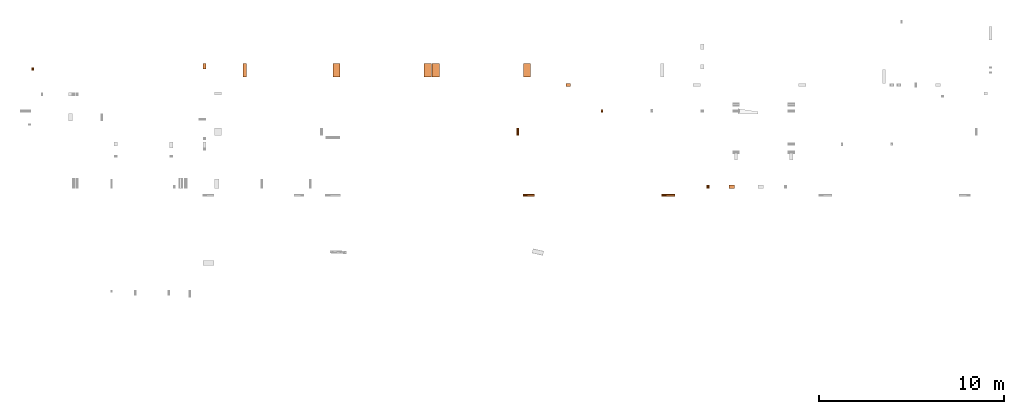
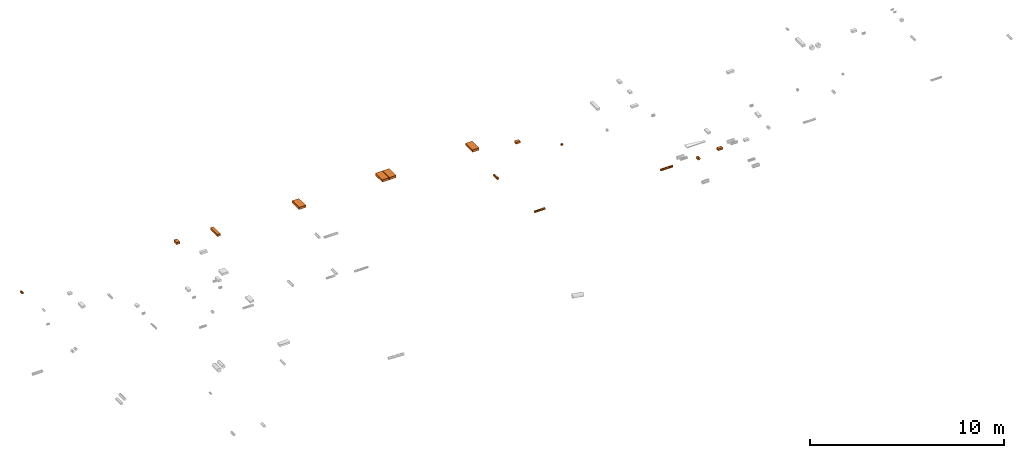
# One storey, part 3 of 7: 14 proxies.
"""IFC2X3 building model written with IfcOpenShell, lengths in centimetres."""

import ifcopenshell
import ifcopenshell.guid

model = None  # the IFC model being written
_history = None  # IfcOwnerHistory: only IFC2X3 demands one
_inside = {}  # id of a spatial element -> (the spatial element, [elements in it])
_under = {}  # id of a project, library or spatial element -> (it, [spatial elements below it])
_declared = {}  # id of a project -> (the project, [libraries it declares])
_typed = {}  # id of a type object -> (the type object, [elements of that type])
_made_of = {}  # id of a material, layer set ... -> (it, [elements and type objects made of it])


def new_model(schema):
    """Start an empty IFC model of exactly this schema.

    Asked for "IFC4X3", IfcOpenShell would pick the latest addendum, in which some entities
    have other attributes; the version numbers below select the first issue.
    IFC2X3 requires an IfcOwnerHistory on every rooted entity: one is made here for all.
    """
    global model, _history
    if schema == "IFC4X3":
        model = ifcopenshell.file(schema_version=(4, 3, 0, 0))
    else:
        model = ifcopenshell.file(schema=schema)
    _inside.clear()
    _under.clear()
    _declared.clear()
    _typed.clear()
    _made_of.clear()
    _history = None
    if model.schema == "IFC2X3":
        org = make("IfcOrganization", Name="unknown")
        user = make(
            "IfcPersonAndOrganization",
            ThePerson=make("IfcPerson", FamilyName="unknown"),
            TheOrganization=org,
        )
        app = make(
            "IfcApplication",
            ApplicationDeveloper=org,
            Version="unknown",
            ApplicationFullName="unknown",
            ApplicationIdentifier="unknown",
        )
        _history = make(
            "IfcOwnerHistory",
            OwningUser=user,
            OwningApplication=app,
            ChangeAction="ADDED",
            CreationDate=0,
        )
    return model


def make(cls, **values):
    """One entity of the class cls with the attributes given. An attribute that is None is left unset."""
    return model.create_entity(
        cls, **{name: value for name, value in values.items() if value is not None}
    )


def entity(cls, *values):
    """Any entity or typed value of the class cls, its attributes in the order of the schema. None: left unset."""
    e = model.create_entity(cls)
    for i, value in enumerate(values):
        if value is not None:
            e[i] = value
    return e


def rooted(cls, **values):
    """An entity with a GlobalId (a new one), such as an element, a storey or a relation."""
    return make(cls, GlobalId=ifcopenshell.guid.new(), OwnerHistory=_history, **values)


def si_unit(unit_type, name, prefix=None):
    """IfcSIUnit, for example si_unit("LENGTHUNIT", "METRE", prefix="MILLI")."""
    return make("IfcSIUnit", UnitType=unit_type, Prefix=prefix, Name=name)


def converted_unit(unit_type, name, factor, base, dimensions=None, offset=None):
    """IfcConversionBasedUnit, such as the inch: factor (a typed value) times the base unit."""
    return make(
        "IfcConversionBasedUnit"
        if offset is None
        else "IfcConversionBasedUnitWithOffset",
        ConversionOffset=offset,
        Dimensions=None
        if dimensions is None
        else entity("IfcDimensionalExponents", *dimensions),
        UnitType=unit_type,
        Name=name,
        ConversionFactor=make(
            "IfcMeasureWithUnit", ValueComponent=factor, UnitComponent=base
        ),
    )


def derived_unit(unit_type, elements):
    """IfcDerivedUnit: a product of units, each with its exponent."""
    return make(
        "IfcDerivedUnit",
        Elements=[
            make("IfcDerivedUnitElement", Unit=unit, Exponent=power)
            for unit, power in elements
        ],
        UnitType=unit_type,
    )


def assignment(units):
    """IfcUnitAssignment: the units of a project."""
    return None if units is None else make("IfcUnitAssignment", Units=units)


def point(xyz):
    """IfcCartesianPoint."""
    return None if xyz is None else make("IfcCartesianPoint", Coordinates=xyz)


def direction(xyz):
    """IfcDirection."""
    return None if xyz is None else make("IfcDirection", DirectionRatios=xyz)


def frame(location, z_axis=None, x_axis=None):
    """IfcAxis2Placement3D, a coordinate frame: its origin and axes. An axis left out is left unset."""
    return make(
        "IfcAxis2Placement3D",
        Location=point(location),
        Axis=direction(z_axis),
        RefDirection=direction(x_axis),
    )


def frame_2d(location, x_axis=None):
    """IfcAxis2Placement2D, a coordinate frame in the plane: its origin and x axis."""
    return make(
        "IfcAxis2Placement2D", Location=point(location), RefDirection=direction(x_axis)
    )


def origin():
    """The frame at (0, 0, 0) with its axes left unset."""
    return frame((0.0, 0.0, 0.0))


def origin_2d_with_axis():
    """The frame at (0, 0) in the plane with the x axis (1, 0) written out."""
    return frame_2d((0.0, 0.0), x_axis=(1.0, 0.0))


def place(relative_to, where):
    """IfcLocalPlacement: puts the frame where relative to a parent placement (None: the world)."""
    return make(
        "IfcLocalPlacement", PlacementRelTo=relative_to, RelativePlacement=where
    )


def context(
    kind, dimensions, precision=None, world=None, true_north=None, identifier=None
):
    """IfcGeometricRepresentationContext, for example the 3D "Model" context."""
    return make(
        "IfcGeometricRepresentationContext",
        ContextIdentifier=identifier,
        ContextType=kind,
        CoordinateSpaceDimension=dimensions,
        Precision=precision,
        WorldCoordinateSystem=world,
        TrueNorth=true_north,
    )


def subcontext(parent, identifier, kind, view, scale=None):
    """IfcGeometricRepresentationSubContext, for example "Body" below "Model"."""
    return make(
        "IfcGeometricRepresentationSubContext",
        ContextIdentifier=identifier,
        ContextType=kind,
        ParentContext=parent,
        TargetScale=scale,
        TargetView=view,
    )


def project(units=None, contexts=None):
    """IfcProject with its units and contexts."""
    return rooted(
        "IfcProject",
        Name="project",
        RepresentationContexts=contexts,
        UnitsInContext=assignment(units),
    )


def spatial(cls, under=None, at=None, **own):
    """A site, building, storey or space (cls), placed at a placement, below another one or the project."""
    s = rooted(cls, ObjectPlacement=at, **own)
    if under is not None:
        _under.setdefault(under.id(), (under, []))[1].append(s)
    return s


def profile(cls, at=None, kind="AREA", **sizes):
    """A parametric profile (cls). Its sizes go by their IFC names, for example OverallWidth=200.0."""
    return make(cls, ProfileType=kind, Position=at, **sizes)


def rectangle(**sizes):
    """IfcRectangleProfileDef."""
    return profile("IfcRectangleProfileDef", **sizes)


def circle(**sizes):
    """IfcCircleProfileDef."""
    return profile("IfcCircleProfileDef", **sizes)


def extrude(swept, where, along, depth):
    """IfcExtrudedAreaSolid: the profile swept, set in the frame where, extruded along a direction by depth."""
    return make(
        "IfcExtrudedAreaSolid",
        SweptArea=swept,
        Position=where,
        ExtrudedDirection=direction(along),
        Depth=depth,
    )


def shape(context_of_items, identifier, shape_type, items):
    """IfcShapeRepresentation: the items that make up one representation, for example the "Body"."""
    return make(
        "IfcShapeRepresentation",
        ContextOfItems=context_of_items,
        RepresentationIdentifier=identifier,
        RepresentationType=shape_type,
        Items=items,
    )


def source(mapping_origin, context_of_items, identifier, shape_type, items):
    """IfcRepresentationMap: a shape defined once, which mapped items show again and again."""
    return make(
        "IfcRepresentationMap",
        MappingOrigin=mapping_origin,
        MappedRepresentation=shape(context_of_items, identifier, shape_type, items),
    )


def transform(
    local_origin,
    x_axis=None,
    y_axis=None,
    z_axis=None,
    scale=None,
    scale2=None,
    scale3=None,
    uniform=True,
):
    """IfcCartesianTransformationOperator3D, or its non-uniform kind. x_axis, y_axis, z_axis: its Axis1, 2, 3."""
    if uniform:
        return make(
            "IfcCartesianTransformationOperator3D",
            Axis1=direction(x_axis),
            Axis2=direction(y_axis),
            LocalOrigin=point(local_origin),
            Scale=scale,
            Axis3=direction(z_axis),
        )
    return make(
        "IfcCartesianTransformationOperator3DnonUniform",
        Axis1=direction(x_axis),
        Axis2=direction(y_axis),
        LocalOrigin=point(local_origin),
        Scale=scale,
        Axis3=direction(z_axis),
        Scale2=scale2,
        Scale3=scale3,
    )


def mapped(mapping_source, mapping_target):
    """IfcMappedItem: shows the shape of a source again, moved by a transform."""
    return make(
        "IfcMappedItem", MappingSource=mapping_source, MappingTarget=mapping_target
    )


def material(Name=None, Category=None):
    """IfcMaterial."""
    return make("IfcMaterial", Name=Name, Category=Category)


def made_of(thing, what):
    """Note that an element or type object is made of a material, layer set ...; save() writes the relation."""
    if what is not None:
        _made_of.setdefault(what.id(), (what, []))[1].append(thing)
    return thing


def type_object(cls, material=None, **own):
    """A type object (cls), such as IfcWallType, which elements share."""
    return made_of(rooted(cls, **own), material)


def type_shapes(of_type, sources):
    """Give a type object the sources (RepresentationMaps) that its elements show as mapped items."""
    of_type.RepresentationMaps = sources


def element(
    cls,
    number,
    at=None,
    inside=None,
    cuts=None,
    type_object=None,
    material=None,
    context=None,
    identifier="Body",
    shape_type=None,
    held_by="IfcProductDefinitionShape",
    body=None,
    shapes=None,
    **own,
):
    """One element of the class cls, such as IfcWall. Its Tag is "e" and its number.

    at: its placement. inside: the storey or other place that contains it. cuts: it is an
    opening in that element (IfcRelVoidsElement). A single representation is given by context,
    identifier, shape_type and body (its items); several are given by shapes. held_by: the class
    of the entity that holds the representations. save() writes the other relations.
    """
    e = rooted(cls, Tag="e%d" % number, ObjectPlacement=at, **own)
    if body is not None:
        shapes = [shape(context, identifier, shape_type, body)]
    if shapes is not None:
        e.Representation = make(held_by, Representations=shapes)
    if inside is not None:
        _inside.setdefault(inside.id(), (inside, []))[1].append(e)
    if cuts is not None:
        rooted(
            "IfcRelVoidsElement", RelatingBuildingElement=cuts, RelatedOpeningElement=e
        )
    if type_object is not None:
        _typed.setdefault(type_object.id(), (type_object, []))[1].append(e)
    return made_of(e, material)


def aggregate(whole, parts):
    """IfcRelAggregates: a whole, such as a stair, and the parts it consists of."""
    return rooted("IfcRelAggregates", RelatingObject=whole, RelatedObjects=parts)


def save(model, path):
    """Write the relations noted so far, then the file.

    IfcRelAggregates (storeys below a building ...), IfcRelContainedInSpatialStructure (elements
    in a storey), IfcRelDefinesByType, IfcRelAssociatesMaterial and IfcRelDeclares: one each for
    every whole, place, type object, material and project.
    """
    for whole, parts in _under.values():
        aggregate(whole, parts)
    for where, things in _inside.values():
        rooted(
            "IfcRelContainedInSpatialStructure",
            RelatedElements=things,
            RelatingStructure=where,
        )
    for kind, things in _typed.values():
        rooted("IfcRelDefinesByType", RelatedObjects=things, RelatingType=kind)
    for what, things in _made_of.values():
        rooted("IfcRelAssociatesMaterial", RelatedObjects=things, RelatingMaterial=what)
    for by, libraries in _declared.values():
        rooted("IfcRelDeclares", RelatingContext=by, RelatedDefinitions=libraries)
    model.write(path)


model = new_model("IFC2X3")

# Units and contexts
model_context = context("Model", 3, precision=0.001, world=origin(), true_north=direction((6.12303176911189e-17, 1.0)))
body_context = subcontext(model_context, "Body", "Model", "MODEL_VIEW")
ifc_project = project(units=[si_unit("LENGTHUNIT", "METRE", prefix="CENTI"), si_unit("AREAUNIT", "SQUARE_METRE"), si_unit("VOLUMEUNIT", "CUBIC_METRE"), converted_unit("PLANEANGLEUNIT", "DEGREE", entity("IfcRatioMeasure", 0.0174532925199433), si_unit("PLANEANGLEUNIT", "RADIAN"), dimensions=[0, 0, 0, 0, 0, 0, 0]), si_unit("MASSUNIT", "GRAM", prefix="KILO"), derived_unit("MASSDENSITYUNIT", [(si_unit("MASSUNIT", "GRAM", prefix="KILO"), 1), (si_unit("LENGTHUNIT", "METRE"), -3)]), si_unit("TIMEUNIT", "SECOND"), si_unit("FREQUENCYUNIT", "HERTZ"), si_unit("THERMODYNAMICTEMPERATUREUNIT", "DEGREE_CELSIUS"), derived_unit("THERMALTRANSMITTANCEUNIT", [(si_unit("MASSUNIT", "GRAM", prefix="KILO"), 1), (si_unit("THERMODYNAMICTEMPERATUREUNIT", "KELVIN"), -1), (si_unit("TIMEUNIT", "SECOND"), -3)]), derived_unit("VOLUMETRICFLOWRATEUNIT", [(si_unit("LENGTHUNIT", "METRE"), 3), (si_unit("TIMEUNIT", "SECOND"), -1)]), si_unit("ELECTRICCURRENTUNIT", "AMPERE"), si_unit("ELECTRICVOLTAGEUNIT", "VOLT"), si_unit("POWERUNIT", "WATT"), si_unit("FORCEUNIT", "NEWTON"), si_unit("ILLUMINANCEUNIT", "LUX"), si_unit("LUMINOUSFLUXUNIT", "LUMEN"), si_unit("LUMINOUSINTENSITYUNIT", "CANDELA"), derived_unit("USERDEFINED", [(si_unit("MASSUNIT", "GRAM", prefix="KILO"), -1), (si_unit("LENGTHUNIT", "METRE"), -2), (si_unit("TIMEUNIT", "SECOND"), 3), (si_unit("LUMINOUSFLUXUNIT", "LUMEN"), 1)]), derived_unit("LINEARVELOCITYUNIT", [(si_unit("LENGTHUNIT", "METRE"), 1), (si_unit("TIMEUNIT", "SECOND"), -1)]), si_unit("PRESSUREUNIT", "PASCAL"), derived_unit("USERDEFINED", [(si_unit("LENGTHUNIT", "METRE"), -2), (si_unit("MASSUNIT", "GRAM", prefix="KILO"), 1), (si_unit("TIMEUNIT", "SECOND"), -2)])], contexts=[model_context])

# Site, building, storey
site_placement = place(None, origin())
site = spatial("IfcSite", under=ifc_project, at=site_placement, Name="Default", CompositionType="ELEMENT")
building_placement = place(site_placement, origin())
building = spatial("IfcBuilding", under=site, at=building_placement, Name="CAGE 03", CompositionType="ELEMENT")
storey_placement = place(building_placement, origin())
storey = spatial("IfcBuildingStorey", under=building, at=storey_placement, Name="RDC", CompositionType="ELEMENT", Elevation=-1.08286712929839e-13)

# Proxies
ifc_material = material(Name="Verre")
building_element_proxy_type_1 = type_object("IfcBuildingElementProxyType", Name="Standard", PredefinedType="NOTDEFINED", material=ifc_material)
shared_shape_1 = source(origin(), body_context, "Body", "SweptSolid", [
    extrude(circle(Radius=6.25, at=frame_2d((-3.48550551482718e-16, -2.81382777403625e-14), x_axis=(1.0, 0.0))), frame((0.0, -5.0, 0.0), z_axis=(0.0, 1.0, 0.0), x_axis=(1.0, 0.0, 0.0)), (0.0, 0.0, 1.0), 10.0),
])
type_shapes(building_element_proxy_type_1, [shared_shape_1])
proxy_1_placement = place(storey_placement, frame((6296.36582014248, 4800.94754288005, 272.5), z_axis=(0.0, 0.0, 1.0), x_axis=(0.0, -1.0, 0.0)))
element("IfcBuildingElementProxy", 1, at=proxy_1_placement, inside=storey, type_object=building_element_proxy_type_1, material=ifc_material, Name="RESERVATION CIRC_MUR:Standard", ObjectType="Standard", context=body_context, shape_type="MappedRepresentation", body=[
    mapped(shared_shape_1, transform((0.0, 0.0, 0.0), scale=1.0)),
])
building_element_proxy_type_2 = type_object("IfcBuildingElementProxyType", Name="Standard", PredefinedType="NOTDEFINED", material=ifc_material)
shared_shape_2 = source(origin(), body_context, "Body", "SweptSolid", [
    extrude(circle(Radius=6.25, at=frame_2d((-3.48550551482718e-16, -2.81382777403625e-14), x_axis=(1.0, 0.0))), frame((0.0, -9.0, 0.0), z_axis=(0.0, 1.0, 0.0), x_axis=(1.0, 0.0, 0.0)), (0.0, 0.0, 1.0), 18.0000000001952),
])
type_shapes(building_element_proxy_type_2, [shared_shape_2])
proxy_2_placement = place(storey_placement, frame((3212.70512711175, 5028.16066607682, 283.579101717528), z_axis=(0.0, 0.0, 1.0), x_axis=(-1.0, -4.66450641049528e-06, 0.0)))
element("IfcBuildingElementProxy", 2, at=proxy_2_placement, inside=storey, type_object=building_element_proxy_type_2, material=ifc_material, Name="RESERVATION CIRC_MUR:Standard", ObjectType="Standard", context=body_context, shape_type="MappedRepresentation", body=[
    mapped(shared_shape_2, transform((0.0, 0.0, 0.0), scale=1.0)),
])
building_element_proxy_type_3 = type_object("IfcBuildingElementProxyType", Name="Standard", PredefinedType="NOTDEFINED", material=ifc_material)
shared_shape_3 = source(origin(), body_context, "Body", "SweptSolid", [
    extrude(rectangle(XDim=17.9999999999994, YDim=30.0000000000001, at=origin_2d_with_axis()), frame((4143.36582014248, 5042.09809765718, 259.996920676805)), (0.0, 0.0, 1.0), 14.0),
])
type_shapes(building_element_proxy_type_3, [shared_shape_3])
proxy_3_placement = place(storey_placement, origin())
element("IfcBuildingElementProxy", 3, at=proxy_3_placement, inside=storey, type_object=building_element_proxy_type_3, material=ifc_material, Name="RESERVATION RECT_MUR:Standard", ObjectType="Standard", context=body_context, shape_type="MappedRepresentation", body=[
    mapped(shared_shape_3, transform((0.0, 0.0, 0.0), scale=1.0)),
])
building_element_proxy_type_4 = type_object("IfcBuildingElementProxyType", Name="Standard", PredefinedType="NOTDEFINED", material=ifc_material)
shared_shape_4 = source(origin(), body_context, "Body", "SweptSolid", [
    extrude(rectangle(XDim=17.9999999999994, YDim=72.0000000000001, at=frame_2d((0.0, -4.33431068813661e-13), x_axis=(1.0, 0.0))), frame((4361.36582014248, 5020.73488307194, 260.076580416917), z_axis=(0.0, 0.0, 1.0), x_axis=(-1.0, 0.0, 0.0)), (0.0, 0.0, 1.0), 14.0),
])
type_shapes(building_element_proxy_type_4, [shared_shape_4])
proxy_4_placement = place(storey_placement, origin())
element("IfcBuildingElementProxy", 4, at=proxy_4_placement, inside=storey, type_object=building_element_proxy_type_4, material=ifc_material, Name="RESERVATION RECT_MUR:Standard", ObjectType="Standard", context=body_context, shape_type="MappedRepresentation", body=[
    mapped(shared_shape_4, transform((0.0, 0.0, 0.0), scale=1.0)),
])
building_element_proxy_type_5 = type_object("IfcBuildingElementProxyType", Name="Standard", PredefinedType="NOTDEFINED", material=ifc_material)
shared_shape_5 = source(origin(), body_context, "Body", "SweptSolid", [
    extrude(rectangle(XDim=39.9999999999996, YDim=72.0, at=origin_2d_with_axis()), frame((0.0, 0.0, -7.0), z_axis=(0.0, 0.0, 1.0), x_axis=(0.0, 1.0, 0.0)), (0.0, 0.0, 1.0), 14.0),
])
type_shapes(building_element_proxy_type_5, [shared_shape_5])
for number, where, z_axis, x_axis, name in (
    (5, (4858.36582014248, 5020.73488307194, 267.08), (0.0, 0.0, 1.0), (0.0, 1.0, 0.0), "RESERVATION RECT_MUR:Standard"),
    (6, (5353.36582014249, 5020.73488307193, 267.08), (0.0, 0.0, 1.0), (0.0, 1.0, 0.0), "RESERVATION RECT_MUR:Standard"),
    (7, (5395.36582014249, 5020.73488307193, 267.08), (0.0, 0.0, 1.0), (0.0, 1.0, 0.0), "RESERVATION RECT_MUR:Standard"),
):
    element("IfcBuildingElementProxy", number, at=place(storey_placement, frame(where, z_axis=z_axis, x_axis=x_axis)), inside=storey, type_object=building_element_proxy_type_5, material=ifc_material, Name=name, ObjectType="Standard", context=body_context, shape_type="MappedRepresentation", body=[
        mapped(shared_shape_5, transform((0.0, 0.0, 0.0), scale=1.0)),
    ])
building_element_proxy_type_6 = type_object("IfcBuildingElementProxyType", Name="Standard", PredefinedType="NOTDEFINED", material=ifc_material)
shared_shape_6 = source(origin(), body_context, "Body", "SweptSolid", [
    extrude(rectangle(XDim=39.9999999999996, YDim=72.0000000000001, at=frame_2d((4.33431068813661e-13, 0.0), x_axis=(1.0, 0.0))), frame((5890.36582014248, 5020.73488307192, 260.0), z_axis=(0.0, 0.0, 1.0), x_axis=(-1.0, 0.0, 0.0)), (0.0, 0.0, 1.0), 14.0),
])
type_shapes(building_element_proxy_type_6, [shared_shape_6])
proxy_5_placement = place(storey_placement, origin())
element("IfcBuildingElementProxy", 8, at=proxy_5_placement, inside=storey, type_object=building_element_proxy_type_6, material=ifc_material, Name="RESERVATION RECT_MUR:Standard", ObjectType="Standard", context=body_context, shape_type="MappedRepresentation", body=[
    mapped(shared_shape_6, transform((0.0, 0.0, 0.0), scale=1.0)),
])
building_element_proxy_type_7 = type_object("IfcBuildingElementProxyType", Name="Standard", PredefinedType="NOTDEFINED", material=ifc_material)
shared_shape_7 = source(origin(), body_context, "Body", "SweptSolid", [
    extrude(rectangle(XDim=18.0000000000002, YDim=25.0, at=origin_2d_with_axis()), frame((0.0, 0.0, -6.0), z_axis=(0.0, 0.0, 1.0), x_axis=(0.0, 1.0, 0.0)), (0.0, 0.0, 1.0), 12.0),
])
type_shapes(building_element_proxy_type_7, [shared_shape_7])
proxy_6_placement = place(storey_placement, frame((6112.85741778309, 4941.6606660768, 267.076580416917), z_axis=(0.0, 0.0, 1.0), x_axis=(-1.0, 0.0, 0.0)))
element("IfcBuildingElementProxy", 9, at=proxy_6_placement, inside=storey, type_object=building_element_proxy_type_7, material=ifc_material, Name="RESERVATION RECT_MUR:Standard", ObjectType="Standard", context=body_context, shape_type="MappedRepresentation", body=[
    mapped(shared_shape_7, transform((0.0, 0.0, 0.0), scale=1.0)),
])
building_element_proxy_type_8 = type_object("IfcBuildingElementProxyType", Name="Standard", PredefinedType="NOTDEFINED", material=ifc_material)
shared_shape_8 = source(origin(), body_context, "Body", "SweptSolid", [
    extrude(circle(Radius=8.0, at=frame_2d((4.97439393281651e-16, -3.60169955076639e-14), x_axis=(1.0, 0.0))), frame((0.0, -9.0, 0.0), z_axis=(0.0, 1.0, 0.0), x_axis=(1.0, 0.0, 0.0)), (0.0, 0.0, 1.0), 18.0000000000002),
])
type_shapes(building_element_proxy_type_8, [shared_shape_8])
proxy_7_placement = place(storey_placement, frame((6871.53189365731, 4390.66066607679, 233.9653936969)))
element("IfcBuildingElementProxy", 10, at=proxy_7_placement, inside=storey, type_object=building_element_proxy_type_8, material=ifc_material, Name="RESERVATION CIRC_MUR1:Standard", ObjectType="Standard", context=body_context, shape_type="MappedRepresentation", body=[
    mapped(shared_shape_8, transform((0.0, 0.0, 0.0), scale=1.0)),
])
building_element_proxy_type_9 = type_object("IfcBuildingElementProxyType", Name="Standard", PredefinedType="NOTDEFINED", material=ifc_material)
shared_shape_9 = source(origin(), body_context, "Body", "SweptSolid", [
    extrude(rectangle(XDim=18.0000000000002, YDim=28.0, at=origin_2d_with_axis()), frame((0.0, 0.0, -6.0), z_axis=(0.0, 0.0, 1.0), x_axis=(0.0, 1.0, 0.0)), (0.0, 0.0, 1.0), 12.0),
])
type_shapes(building_element_proxy_type_9, [shared_shape_9])
proxy_8_placement = place(storey_placement, frame((6999.2937273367, 4390.6606660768, 249.995799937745), z_axis=(0.0, 0.0, 1.0), x_axis=(-1.0, 0.0, 0.0)))
element("IfcBuildingElementProxy", 11, at=proxy_8_placement, inside=storey, type_object=building_element_proxy_type_9, material=ifc_material, Name="RESERVATION RECT_MUR:Standard", ObjectType="Standard", context=body_context, shape_type="MappedRepresentation", body=[
    mapped(shared_shape_9, transform((0.0, 0.0, 0.0), scale=1.0)),
])
building_element_proxy_type_10 = type_object("IfcBuildingElementProxyType", Name="Standard", PredefinedType="NOTDEFINED", material=ifc_material)
shared_shape_10 = source(origin(), body_context, "Body", "SweptSolid", [
    extrude(circle(Radius=7.0, at=frame_2d((-3.48550551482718e-16, -3.1514871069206e-14), x_axis=(1.0, 0.0))), frame((0.0, -20.0, 0.0), z_axis=(0.0, 1.0, 0.0), x_axis=(1.0, 0.0, 0.0)), (0.0, 0.0, 1.0), 39.9999999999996),
])
type_shapes(building_element_proxy_type_10, [shared_shape_10])
proxy_9_placement = place(storey_placement, frame((5839.39757075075, 4688.6606660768, 296.248838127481), z_axis=(0.0, 0.0, 1.0), x_axis=(-1.0, -5.13707993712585e-08, 0.0)))
element("IfcBuildingElementProxy", 12, at=proxy_9_placement, inside=storey, type_object=building_element_proxy_type_10, material=ifc_material, Name="RESERVATION CIRC_MUR1:Standard", ObjectType="Standard", context=body_context, shape_type="MappedRepresentation", body=[
    mapped(shared_shape_10, transform((0.0, 0.0, 0.0), scale=1.0)),
])
building_element_proxy_type_11 = type_object("IfcBuildingElementProxyType", Name="Standard", PredefinedType="NOTDEFINED", material=ifc_material)
shared_shape_11 = source(origin(), body_context, "Body", "SweptSolid", [
    extrude(circle(Radius=5.0, at=origin_2d_with_axis()), frame((5870.36582014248, 4343.6606660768, 275.0), z_axis=(1.0, 0.0, 0.0), x_axis=(0.0, -1.0, 0.0)), (0.0, 0.0, 1.0), 60.000000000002),
])
type_shapes(building_element_proxy_type_11, [shared_shape_11])
proxy_10_placement = place(storey_placement, origin())
element("IfcBuildingElementProxy", 13, at=proxy_10_placement, inside=storey, type_object=building_element_proxy_type_11, material=ifc_material, Name="RESERVATION CIRC_MUR:Standard", ObjectType="Standard", context=body_context, shape_type="MappedRepresentation", body=[
    mapped(shared_shape_11, transform((0.0, 0.0, 0.0), scale=1.0)),
])
building_element_proxy_type_12 = type_object("IfcBuildingElementProxyType", Name="Standard", PredefinedType="NOTDEFINED", material=ifc_material)
shared_shape_12 = source(origin(), body_context, "Body", "SweptSolid", [
    extrude(circle(Radius=5.0, at=origin_2d_with_axis()), frame((6621.36582014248, 4343.6606660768, 275.0), z_axis=(1.0, 0.0, 0.0), x_axis=(0.0, -1.0, 0.0)), (0.0, 0.0, 1.0), 69.9999999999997),
])
type_shapes(building_element_proxy_type_12, [shared_shape_12])
proxy_11_placement = place(storey_placement, origin())
element("IfcBuildingElementProxy", 14, at=proxy_11_placement, inside=storey, type_object=building_element_proxy_type_12, material=ifc_material, Name="RESERVATION CIRC_MUR:Standard", ObjectType="Standard", context=body_context, shape_type="MappedRepresentation", body=[
    mapped(shared_shape_12, transform((0.0, 0.0, 0.0), scale=1.0)),
])

save(model, "model.ifc")
